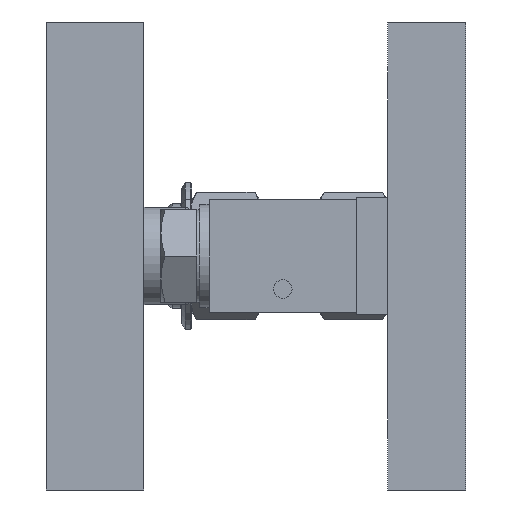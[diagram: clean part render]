
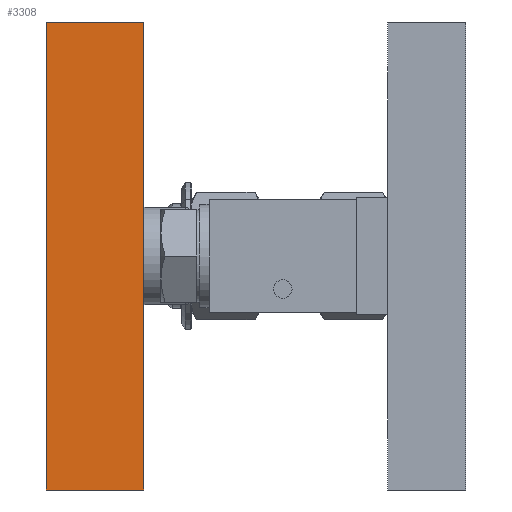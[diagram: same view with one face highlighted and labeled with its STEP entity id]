
A CAD part, left-side view. The second image highlights one B-rep face of the part: STEP entity #3308.
In plain terms, the highlighted planar face has unit normal (-1, 0, 0) as drawn and (0, 0, 1) by its records, which use the part's own axes.
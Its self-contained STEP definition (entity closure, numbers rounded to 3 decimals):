
#171 = DIRECTION ( 'NONE',  ( 0., -1., 0. ) ) ;
#854 = ORIENTED_EDGE ( 'NONE', *, *, #5311, .F. ) ;
#1078 = CARTESIAN_POINT ( 'NONE',  ( -76.2, 0., 76.2 ) ) ;
#1082 = FACE_OUTER_BOUND ( 'NONE', #1755, .T. ) ;
#1558 = CARTESIAN_POINT ( 'NONE',  ( 76.2, 0., 76.2 ) ) ;
#1697 = DIRECTION ( 'NONE',  ( -1., 0., 0. ) ) ;
#1755 = EDGE_LOOP ( 'NONE', ( #7692, #854, #4013, #7468 ) ) ;
#1997 = DIRECTION ( 'NONE',  ( 0., -1., 0. ) ) ;
#2378 = DIRECTION ( 'NONE',  ( 0., 0., -1. ) ) ;
#2908 = CARTESIAN_POINT ( 'NONE',  ( 76.2, 31.75, 76.2 ) ) ;
#2910 = CARTESIAN_POINT ( 'NONE',  ( -76.2, 31.75, 76.2 ) ) ;
#2949 = LINE ( 'NONE', #2908, #8634 ) ;
#3033 = LINE ( 'NONE', #2910, #4827 ) ;
#3140 = CARTESIAN_POINT ( 'NONE',  ( -76.2, 31.75, 76.2 ) ) ;
#3308 = ADVANCED_FACE ( 'NONE', ( #1082 ), #5191, .F. ) ;
#3752 = VERTEX_POINT ( 'NONE', #5684 ) ;
#4013 = ORIENTED_EDGE ( 'NONE', *, *, #6702, .F. ) ;
#4827 = VECTOR ( 'NONE', #5043, 1000. ) ;
#5007 = VECTOR ( 'NONE', #6047, 1000. ) ;
#5043 = DIRECTION ( 'NONE',  ( 1., 0., 0. ) ) ;
#5191 = PLANE ( 'NONE',  #6080 ) ;
#5241 = CARTESIAN_POINT ( 'NONE',  ( -76.2, 31.75, 76.2 ) ) ;
#5311 = EDGE_CURVE ( 'NONE', #3752, #6698, #2949, .T. ) ;
#5684 = CARTESIAN_POINT ( 'NONE',  ( 76.2, 31.75, 76.2 ) ) ;
#6047 = DIRECTION ( 'NONE',  ( 1., 0., 0. ) ) ;
#6080 = AXIS2_PLACEMENT_3D ( 'NONE', #5241, #2378, #1697 ) ;
#6539 = VERTEX_POINT ( 'NONE', #8267 ) ;
#6698 = VERTEX_POINT ( 'NONE', #1558 ) ;
#6702 = EDGE_CURVE ( 'NONE', #7365, #3752, #3033, .T. ) ;
#7074 = EDGE_CURVE ( 'NONE', #7365, #6539, #8788, .T. ) ;
#7193 = LINE ( 'NONE', #1078, #5007 ) ;
#7287 = VECTOR ( 'NONE', #1997, 1000. ) ;
#7305 = CARTESIAN_POINT ( 'NONE',  ( -76.2, 31.75, 76.2 ) ) ;
#7365 = VERTEX_POINT ( 'NONE', #3140 ) ;
#7435 = EDGE_CURVE ( 'NONE', #6539, #6698, #7193, .T. ) ;
#7468 = ORIENTED_EDGE ( 'NONE', *, *, #7074, .T. ) ;
#7692 = ORIENTED_EDGE ( 'NONE', *, *, #7435, .T. ) ;
#8267 = CARTESIAN_POINT ( 'NONE',  ( -76.2, 0., 76.2 ) ) ;
#8634 = VECTOR ( 'NONE', #171, 1000. ) ;
#8788 = LINE ( 'NONE', #7305, #7287 ) ;
